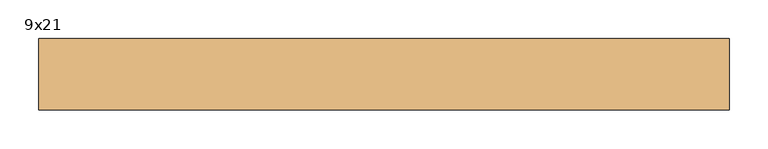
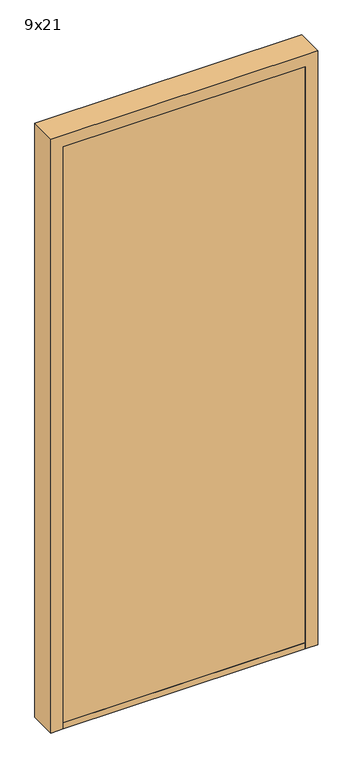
"""IFC4 building model written with IfcOpenShell, lengths in millimetres: door geometry, Innerdør Slett (Diplomat) : 9x21."""

from ifc_helpers import new_model, si_unit, point, frame, frame_2d, origin, origin_with_axes, place, context, project, spatial, polyline, circle_curve, trimmed, segment, composite_curve, outline, extrude, source, transform, mapped, element, save
from ifc_brep_helpers import plane_surface, cylinder_surface, revolved_surface, advanced_brep


def door_9x21_0ca1f15c(model_context):
    return source(origin(), model_context, "Body", "SolidModel", [
        advanced_brep(
        [(343.9611305, -60.0, 949.1175955), (338.8520664, -60.0, 949.9496913), (276.0476109, -60.0, 943.6260011), (246.721536, -60.0, 938.7393398), (241.8691983, -60.0, 951.8913379), (245.505009, -60.0, 959.9624074), (250.3175669, -60.0, 964.8810513), (268.8963175, -60.0, 967.2639242), (313.6202158, -60.0, 964.1804415), (318.6891233, -60.0, 964.26032), (367.2687793, -60.0, 969.1517356), (396.379633, -60.0, 951.3474568), (358.3841161, -60.0, 942.6204086), (318.6891233, -67.1084716, 964.26032), (313.6202158, -67.1084716, 964.1804415), (268.8963175, -67.1084716, 967.2639242), (250.3175669, -67.1084716, 964.8810513), (245.505009, -67.1084716, 959.9624074), (241.8691983, -67.1084716, 951.8913379), (246.721536, -67.1084716, 938.7393398), (276.0476109, -67.1084716, 943.6260011), (338.8520664, -67.1084716, 949.9496913), (343.9611305, -67.1084716, 949.1175955), (358.3841161, -67.1084716, 942.6204086), (356.379633, -67.1084716, 951.3474568), (367.2687793, -67.1084716, 969.1517356), (396.379633, -95.0, 951.3474568), (356.379633, -95.0, 951.3474568)],
        [
            (0, 1, circle_curve(frame((339.8538865, -60.0, 940.0), z_axis=(0.0, -1.0, 0.0), x_axis=(-0.9949691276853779, 0.0, -0.10018200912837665)), 10.0)),
            (1, 2),
            (2, 3, circle_curve(frame((257.8569644, -60.0, 962.352734), z_axis=(0.0, 1.0, 0.0), x_axis=(-0.9949691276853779, 0.0, -0.10018200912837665)), 26.1072815)),
            (3, 4, circle_curve(frame((250.9867937, -60.0, 947.7840939), z_axis=(0.0, 1.0, 0.0), x_axis=(-0.9949691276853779, 0.0, -0.10018200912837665)), 10.0)),
            (4, 5),
            (5, 6, circle_curve(frame((254.6226045, -60.0, 955.8551634), z_axis=(0.0, 1.0, 0.0), x_axis=(-0.9949691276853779, 0.0, -0.10018200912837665)), 10.0)),
            (6, 7, circle_curve(frame((263.2326797, -60.0, 937.8033877), z_axis=(0.0, 1.0, 0.0), x_axis=(-0.9949691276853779, 0.0, -0.10018200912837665)), 30.0)),
            (7, 8),
            (8, 9, circle_curve(frame((315.683663, -60.0, 994.1093938), z_axis=(0.0, -1.0, 0.0), x_axis=(-0.9949691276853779, 0.0, -0.10018200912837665)), 30.0)),
            (9, 10),
            (10, 11, circle_curve(frame((376.379633, -60.0, 951.3474568), z_axis=(0.0, 1.0, 0.0), x_axis=(-1.0, 0.0, 0.0)), 20.0)),
            (11, 12, circle_curve(frame((376.379633, -60.0, 951.3474568), z_axis=(0.0, 1.0, 0.0), x_axis=(-1.0, 0.0, 0.0)), 20.0)),
            (12, 0),
            (13, 14, circle_curve(frame((315.683663, -67.1084716, 994.1093938), z_axis=(0.0, 1.0, 0.0), x_axis=(-0.9949691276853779, 0.0, -0.10018200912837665)), 30.0)),
            (14, 15),
            (15, 16, circle_curve(frame((263.2326797, -67.1084716, 937.8033877), z_axis=(0.0, -1.0, 0.0), x_axis=(-0.9949691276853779, 0.0, -0.10018200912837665)), 30.0)),
            (16, 17, circle_curve(frame((254.6226045, -67.1084716, 955.8551634), z_axis=(0.0, -1.0, 0.0), x_axis=(-0.9949691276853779, 0.0, -0.10018200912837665)), 10.0)),
            (17, 18),
            (18, 19, circle_curve(frame((250.9867937, -67.1084716, 947.7840939), z_axis=(0.0, -1.0, 0.0), x_axis=(-0.9949691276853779, 0.0, -0.10018200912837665)), 10.0)),
            (19, 20, circle_curve(frame((257.8569644, -67.1084716, 962.352734), z_axis=(0.0, -1.0, 0.0), x_axis=(-0.9949691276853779, 0.0, -0.10018200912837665)), 26.1072815)),
            (20, 21),
            (21, 22, circle_curve(frame((339.8538865, -67.1084716, 940.0), z_axis=(0.0, 1.0, 0.0), x_axis=(-0.9949691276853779, 0.0, -0.10018200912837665)), 10.0)),
            (22, 23),
            (23, 24, circle_curve(frame((376.379633, -67.1084716, 951.3474568), z_axis=(0.0, 1.0, 0.0), x_axis=(-1.0, 0.0, 0.0)), 20.0)),
            (24, 25, circle_curve(frame((376.379633, -67.1084716, 951.3474568), z_axis=(0.0, 1.0, 0.0), x_axis=(-1.0, 0.0, 0.0)), 20.0)),
            (25, 13),
            (9, 13),
            (25, 10),
            (22, 0),
            (12, 23),
            (21, 1),
            (20, 2),
            (19, 3),
            (18, 4),
            (17, 5),
            (16, 6),
            (15, 7),
            (14, 8),
            (26, 27, circle_curve(frame((376.379633, -95.0, 951.3474568), z_axis=(0.0, -1.0, 0.0), x_axis=(-1.0, 0.0, 0.0)), 20.0)),
            (27, 26, circle_curve(frame((376.379633, -95.0, 951.3474568), z_axis=(0.0, -1.0, 0.0), x_axis=(-1.0, 0.0, 0.0)), 20.0)),
            (27, 24),
            (11, 26),
        ],
        [
            plane_surface(frame((367.6960588, -60.0, 969.1947577), z_axis=(0.0, 1.0000000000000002, 0.0), x_axis=(0.9949691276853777, 0.0, 0.10018200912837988))),
            plane_surface(frame((367.6960588, -67.1084716, 969.1947577), z_axis=(0.0, -1.0000000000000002, 0.0), x_axis=(-0.9949691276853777, 0.0, -0.10018200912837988))),
            plane_surface(frame((318.6891233, -60.0, 964.26032), z_axis=(-0.10018200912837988, 0.0, 0.9949691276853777), x_axis=(0.0, -1.0, 0.0))),
            plane_surface(frame((376.9687366, -60.0, 934.2485115), z_axis=(-0.41072439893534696, 0.0, -0.91175954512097), x_axis=(0.0, -1.0, 0.0))),
            revolved_surface(polyline([(329.9041952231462, -67.1084716, 938.9981799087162), (329.9041952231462, -60.0, 938.9981799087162)]), (339.8538865, -67.1084716, 940.0), (0.0, -1.0, 0.0)),
            plane_surface(frame((338.8520664, -60.0, 949.9496913), z_axis=(0.10018200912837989, 0.0, -0.9949691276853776), x_axis=(0.0, -1.0, 0.0))),
            cylinder_surface(frame((257.8569644, -67.1084716, 962.352734), z_axis=(0.0, 1.0, 0.0), x_axis=(-0.9949691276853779, 0.0, -0.10018200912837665)), 26.1072815),
            cylinder_surface(frame((250.9867937, -67.1084716, 947.7840939), z_axis=(0.0, 1.0, 0.0), x_axis=(-0.9949691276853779, 0.0, -0.10018200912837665)), 10.0),
            plane_surface(frame((241.8691983, -60.0, 951.8913379), z_axis=(-0.9117595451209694, 0.0, 0.41072439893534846), x_axis=(0.0, -1.0, 0.0))),
            cylinder_surface(frame((254.6226045, -67.1084716, 955.8551634), z_axis=(0.0, 1.0, 0.0), x_axis=(-0.9949691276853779, 0.0, -0.10018200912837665)), 10.0),
            cylinder_surface(frame((263.2326797, -67.1084716, 937.8033877), z_axis=(0.0, 1.0, 0.0), x_axis=(-0.9949691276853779, 0.0, -0.10018200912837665)), 30.0),
            plane_surface(frame((268.8963175, -60.0, 967.2639242), z_axis=(0.06878157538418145, 0.0, 0.9976317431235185), x_axis=(0.0, -1.0, 0.0))),
            revolved_surface(polyline([(285.8345891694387, -67.1084716, 991.1039335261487), (285.8345891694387, -60.0, 991.1039335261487)]), (315.683663, -67.1084716, 994.1093938), (0.0, -1.0, 0.0)),
            plane_surface(frame((356.379633, -95.0, 951.3474568), z_axis=(0.0, -1.0, 0.0), x_axis=(0.0, 0.0, -1.0))),
            cylinder_surface(frame((376.379633, -95.0, 951.3474568), z_axis=(0.0, 1.0, 0.0), x_axis=(-1.0, 0.0, 0.0)), 20.0),
        ],
        [
            (0, [[1, 2, 3, 4, 5, 6, 7, 8, 9, 10, 11, 12, 13]]),
            (1, [[14, 15, 16, 17, 18, 19, 20, 21, 22, 23, 24, 25, 26]]),
            (2, [[27, -26, 28, -10]]),
            (3, [[29, -13, 30, -23]]),
            (4, [[-1, -29, -22, 31]]),
            (5, [[-2, -31, -21, 32]]),
            (6, [[-3, -32, -20, 33]]),
            (7, [[-4, -33, -19, 34]]),
            (8, [[-5, -34, -18, 35]]),
            (9, [[-6, -35, -17, 36]]),
            (10, [[-7, -36, -16, 37]]),
            (11, [[-8, -37, -15, 38]]),
            (12, [[-9, -38, -14, -27]]),
            (13, [[39, 40]]),
            (14, [[-40, 41, -24, -30, -12, 42]]),
            (14, [[-39, -42, -11, -28, -25, -41]]),
        ],
    ),
        extrude(outline(composite_curve([segment(trimmed(circle_curve(frame_2d((866.3474568, 376.379633)), 20.0), [point((866.3474568, 396.379633))], [point((866.3474568, 356.379633))], False, "CARTESIAN"), True, "CONTINUOUS"), segment(trimmed(circle_curve(frame_2d((866.3474568, 376.379633)), 20.0), [point((866.3474568, 356.379633))], [point((866.3474568, 396.379633))], False, "CARTESIAN"), True, "CONTINUOUS")], self_intersect=False)), frame((0.0, -95.0, 0.0), z_axis=(0.0, 1.0, 0.0), x_axis=(0.0, 0.0, 1.0)), (0.0, 0.0, 1.0), 5.0),
        advanced_brep(
        [(343.9611305, -100.0, 949.1175955), (358.3841161, -100.0, 942.6204086), (396.379633, -100.0, 951.3474568), (367.2687793, -100.0, 969.1517356), (318.6891233, -100.0, 964.26032), (313.6202158, -100.0, 964.1804415), (268.8963175, -100.0, 967.2639242), (250.3175669, -100.0, 964.8810513), (245.505009, -100.0, 959.9624074), (241.8691983, -100.0, 951.8913379), (246.721536, -100.0, 938.7393398), (276.0476109, -100.0, 943.6260011), (338.8520664, -100.0, 949.9496913), (318.6891233, -92.8915284, 964.26032), (367.2687793, -92.8915284, 969.1517356), (356.379633, -92.8915284, 951.3474568), (358.3841161, -92.8915284, 942.6204086), (343.9611305, -92.8915284, 949.1175955), (338.8520664, -92.8915284, 949.9496913), (276.0476109, -92.8915284, 943.6260011), (246.721536, -92.8915284, 938.7393398), (241.8691983, -92.8915284, 951.8913379), (245.505009, -92.8915284, 959.9624074), (250.3175669, -92.8915284, 964.8810513), (268.8963175, -92.8915284, 967.2639242), (313.6202158, -92.8915284, 964.1804415), (396.379633, -65.0, 951.3474568), (356.379633, -65.0, 951.3474568)],
        [
            (0, 1),
            (1, 2, circle_curve(frame((376.379633, -100.0, 951.3474568), z_axis=(0.0, -1.0, 0.0), x_axis=(-1.0, 0.0, 0.0)), 20.0)),
            (2, 3, circle_curve(frame((376.379633, -100.0, 951.3474568), z_axis=(0.0, -1.0, 0.0), x_axis=(-1.0, 0.0, 0.0)), 20.0)),
            (3, 4),
            (4, 5, circle_curve(frame((315.683663, -100.0, 994.1093938), z_axis=(0.0, 1.0, 0.0), x_axis=(-0.9949691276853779, 0.0, -0.10018200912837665)), 30.0)),
            (5, 6),
            (6, 7, circle_curve(frame((263.2326797, -100.0, 937.8033877), z_axis=(0.0, -1.0, 0.0), x_axis=(-0.9949691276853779, 0.0, -0.10018200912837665)), 30.0)),
            (7, 8, circle_curve(frame((254.6226045, -100.0, 955.8551634), z_axis=(0.0, -1.0, 0.0), x_axis=(-0.9949691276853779, 0.0, -0.10018200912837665)), 10.0)),
            (8, 9),
            (9, 10, circle_curve(frame((250.9867937, -100.0, 947.7840939), z_axis=(0.0, -1.0, 0.0), x_axis=(-0.9949691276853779, 0.0, -0.10018200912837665)), 10.0)),
            (10, 11, circle_curve(frame((257.8569644, -100.0, 962.352734), z_axis=(0.0, -1.0, 0.0), x_axis=(-0.9949691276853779, 0.0, -0.10018200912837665)), 26.1072815)),
            (11, 12),
            (12, 0, circle_curve(frame((339.8538865, -100.0, 940.0), z_axis=(0.0, 1.0, 0.0), x_axis=(-0.9949691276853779, 0.0, -0.10018200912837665)), 10.0)),
            (13, 14),
            (14, 15, circle_curve(frame((376.379633, -92.8915284, 951.3474568), z_axis=(0.0, -1.0, 0.0), x_axis=(-1.0, 0.0, 0.0)), 20.0)),
            (15, 16, circle_curve(frame((376.379633, -92.8915284, 951.3474568), z_axis=(0.0, -1.0, 0.0), x_axis=(-1.0, 0.0, 0.0)), 20.0)),
            (16, 17),
            (17, 18, circle_curve(frame((339.8538865, -92.8915284, 940.0), z_axis=(0.0, -1.0, 0.0), x_axis=(-0.9949691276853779, 0.0, -0.10018200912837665)), 10.0)),
            (18, 19),
            (19, 20, circle_curve(frame((257.8569644, -92.8915284, 962.352734), z_axis=(0.0, 1.0, 0.0), x_axis=(-0.9949691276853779, 0.0, -0.10018200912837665)), 26.1072815)),
            (20, 21, circle_curve(frame((250.9867937, -92.8915284, 947.7840939), z_axis=(0.0, 1.0, 0.0), x_axis=(-0.9949691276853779, 0.0, -0.10018200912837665)), 10.0)),
            (21, 22),
            (22, 23, circle_curve(frame((254.6226045, -92.8915284, 955.8551634), z_axis=(0.0, 1.0, 0.0), x_axis=(-0.9949691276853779, 0.0, -0.10018200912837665)), 10.0)),
            (23, 24, circle_curve(frame((263.2326797, -92.8915284, 937.8033877), z_axis=(0.0, 1.0, 0.0), x_axis=(-0.9949691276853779, 0.0, -0.10018200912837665)), 30.0)),
            (24, 25),
            (25, 13, circle_curve(frame((315.683663, -92.8915284, 994.1093938), z_axis=(0.0, -1.0, 0.0), x_axis=(-0.9949691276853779, 0.0, -0.10018200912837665)), 30.0)),
            (3, 14),
            (13, 4),
            (16, 1),
            (0, 17),
            (12, 18),
            (11, 19),
            (10, 20),
            (9, 21),
            (8, 22),
            (7, 23),
            (6, 24),
            (5, 25),
            (26, 27, circle_curve(frame((376.379633, -65.0, 951.3474568), z_axis=(0.0, 1.0, 0.0), x_axis=(-1.0, 0.0, 0.0)), 20.0)),
            (27, 26, circle_curve(frame((376.379633, -65.0, 951.3474568), z_axis=(0.0, 1.0, 0.0), x_axis=(-1.0, 0.0, 0.0)), 20.0)),
            (26, 2),
            (15, 27),
        ],
        [
            plane_surface(frame((367.6960588, -100.0, 969.1947577), z_axis=(0.0, -1.0000000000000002, 0.0), x_axis=(0.9949691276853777, 0.0, 0.10018200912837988))),
            plane_surface(frame((367.6960588, -92.8915284, 969.1947577), z_axis=(0.0, 1.0000000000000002, 0.0), x_axis=(-0.9949691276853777, 0.0, -0.10018200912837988))),
            plane_surface(frame((318.6891233, -100.0, 964.26032), z_axis=(-0.10018200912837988, 0.0, 0.9949691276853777), x_axis=(0.0, 1.0, 0.0))),
            plane_surface(frame((376.9687366, -100.0, 934.2485115), z_axis=(-0.41072439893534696, 0.0, -0.91175954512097), x_axis=(0.0, 1.0, 0.0))),
            revolved_surface(polyline([(329.9041952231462, -92.8915284, 938.9981799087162), (329.9041952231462, -100.0, 938.9981799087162)]), (339.8538865, -92.8915284, 940.0), (0.0, 1.0, 0.0)),
            plane_surface(frame((338.8520664, -100.0, 949.9496913), z_axis=(0.10018200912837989, 0.0, -0.9949691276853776), x_axis=(0.0, 1.0, 0.0))),
            cylinder_surface(frame((257.8569644, -92.8915284, 962.352734), z_axis=(0.0, -1.0, 0.0), x_axis=(-0.9949691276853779, 0.0, -0.10018200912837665)), 26.1072815),
            cylinder_surface(frame((250.9867937, -92.8915284, 947.7840939), z_axis=(0.0, -1.0, 0.0), x_axis=(-0.9949691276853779, 0.0, -0.10018200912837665)), 10.0),
            plane_surface(frame((241.8691983, -100.0, 951.8913379), z_axis=(-0.9117595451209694, 0.0, 0.41072439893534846), x_axis=(0.0, 1.0, 0.0))),
            cylinder_surface(frame((254.6226045, -92.8915284, 955.8551634), z_axis=(0.0, -1.0, 0.0), x_axis=(-0.9949691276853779, 0.0, -0.10018200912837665)), 10.0),
            cylinder_surface(frame((263.2326797, -92.8915284, 937.8033877), z_axis=(0.0, -1.0, 0.0), x_axis=(-0.9949691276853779, 0.0, -0.10018200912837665)), 30.0),
            plane_surface(frame((268.8963175, -100.0, 967.2639242), z_axis=(0.06878157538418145, 0.0, 0.9976317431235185), x_axis=(0.0, 1.0, 0.0))),
            revolved_surface(polyline([(285.8345891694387, -92.8915284, 991.1039335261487), (285.8345891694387, -100.0, 991.1039335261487)]), (315.683663, -92.8915284, 994.1093938), (0.0, 1.0, 0.0)),
            plane_surface(frame((356.379633, -65.0, 951.3474568), z_axis=(0.0, 1.0, 0.0), x_axis=(0.0, 0.0, -1.0))),
            cylinder_surface(frame((376.379633, -65.0, 951.3474568), z_axis=(0.0, -1.0, 0.0), x_axis=(-1.0, 0.0, 0.0)), 20.0),
        ],
        [
            (0, [[1, 2, 3, 4, 5, 6, 7, 8, 9, 10, 11, 12, 13]]),
            (1, [[14, 15, 16, 17, 18, 19, 20, 21, 22, 23, 24, 25, 26]]),
            (2, [[-4, 27, -14, 28]]),
            (3, [[-17, 29, -1, 30]]),
            (4, [[31, -18, -30, -13]]),
            (5, [[32, -19, -31, -12]]),
            (6, [[33, -20, -32, -11]]),
            (7, [[34, -21, -33, -10]]),
            (8, [[35, -22, -34, -9]]),
            (9, [[36, -23, -35, -8]]),
            (10, [[37, -24, -36, -7]]),
            (11, [[38, -25, -37, -6]]),
            (12, [[-28, -26, -38, -5]]),
            (13, [[39, 40]]),
            (14, [[41, -2, -29, -16, 42, -39]]),
            (14, [[-42, -15, -27, -3, -41, -40]]),
        ],
    ),
        extrude(outline(composite_curve([segment(trimmed(circle_curve(frame_2d((866.3474568, 376.379633)), 20.0), [point((866.3474568, 396.379633))], [point((866.3474568, 356.379633))], False, "CARTESIAN"), True, "CONTINUOUS"), segment(trimmed(circle_curve(frame_2d((866.3474568, 376.379633)), 20.0), [point((866.3474568, 356.379633))], [point((866.3474568, 396.379633))], False, "CARTESIAN"), True, "CONTINUOUS")], self_intersect=False)), frame((0.0, -70.0, 0.0), z_axis=(0.0, 1.0, 0.0), x_axis=(0.0, 0.0, 1.0)), (0.0, 0.0, 1.0), 5.0),
        extrude(outline(polyline([(456.379633, -53.0), (456.379633, -145.0), (-349.620367, -145.0), (-349.620367, -53.0), (456.379633, -53.0)])), origin_with_axes(), (0.0, 0.0, 1.0), 22.0),
        extrude(outline(polyline([(456.379633, -95.0), (456.379633, -145.0), (-349.620367, -145.0), (-349.620367, -95.0), (456.379633, -95.0)])), frame((0.0, 0.0, 22.0), z_axis=(0.0, 0.0, 1.0), x_axis=(1.0, 0.0, 0.0)), (0.0, 0.0, 1.0), 2031.0),
        extrude(outline(polyline([(0.0, -349.620367), (2053.0, -349.620367), (2053.0, 456.379633), (0.0, 456.379633), (0.0, 498.379633), (2095.0, 498.379633), (2095.0, -391.620367), (0.0, -391.620367), (0.0, -349.620367)])), frame((0.0, -145.0, 0.0), z_axis=(0.0, 1.0, 0.0), x_axis=(0.0, 0.0, 1.0)), (0.0, 0.0, 1.0), 92.0),
    ])


if __name__ == "__main__":
    model = new_model("IFC4")
    model_context = context("Model", 3, world=origin())
    ifc_project = project(units=[si_unit("LENGTHUNIT", "METRE", prefix="MILLI")], contexts=[model_context])
    site = spatial("IfcSite", under=ifc_project)
    building = spatial("IfcBuilding", under=site)
    placement = place(None, origin())
    door_9x21_shape = door_9x21_0ca1f15c(model_context)
    element("IfcDoor", 1, ObjectType="Innerdør Slett (Diplomat) : 9x21", at=placement, inside=building, context=model_context, shape_type="MappedRepresentation", body=[
        mapped(door_9x21_shape, transform((0.0, 0.0, 0.0), x_axis=(1.0, 0.0, 0.0), y_axis=(0.0, 1.0, 0.0), z_axis=(0.0, 0.0, 1.0))),
    ])
    save(model, "model.ifc")
